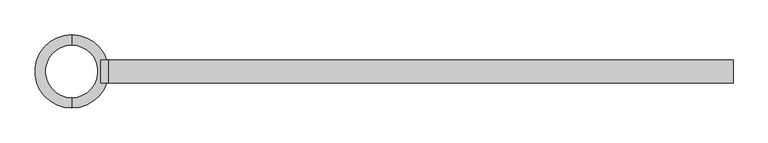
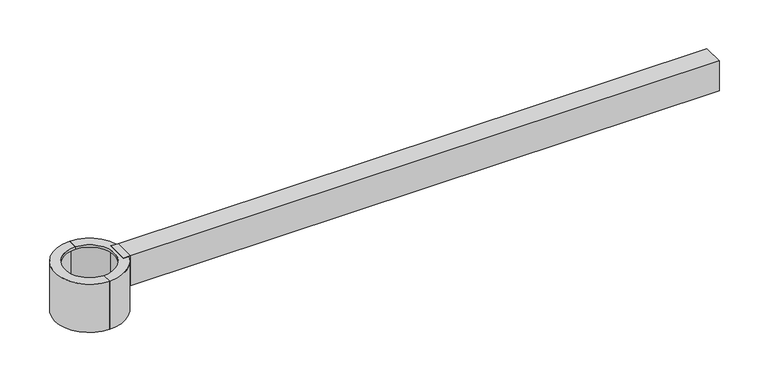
"""IFC4 building model written with IfcOpenShell, lengths in millimetres: light fixture geometry, CANDELA_CLF : 1XCLF05."""

from ifc_helpers import new_model, si_unit, frame, origin, origin_with_axes, place, context, project, spatial, polyline, circle_curve, outline, extrude, source, transform, mapped, element, save
from ifc_brep_helpers import plane_surface, cylinder_surface, revolved_surface, advanced_brep


def light_fixture_033000f6(model_context):
    return source(origin(), model_context, "Body", "SolidModel", [
        advanced_brep(
        [(0.0, -88.3, -50.0), (0.0, -63.5, -50.0), (0.0, -63.5, -44.0), (0.0, -82.3, -44.0), (0.0, -82.3, 74.0), (0.0, -63.5, 74.0), (0.0, -63.5, 80.0), (0.0, -88.3, 80.0), (0.0, 88.3, -50.0), (0.0, 88.3, 80.0), (0.0, 63.5, 80.0), (0.0, 63.5, 74.0), (0.0, 82.3, 74.0), (0.0, 82.3, -44.0), (0.0, 63.5, -44.0), (0.0, 63.5, -50.0)],
        [
            (0, 1),
            (1, 2),
            (2, 3),
            (3, 4),
            (4, 5),
            (5, 6),
            (6, 7),
            (7, 0),
            (8, 9),
            (9, 10),
            (10, 11),
            (11, 12),
            (12, 13),
            (13, 14),
            (14, 15),
            (15, 8),
            (15, 1, circle_curve(frame((0.0, 0.0, -50.0), z_axis=(0.0, 0.0, 1.0), x_axis=(0.0, -1.0, 0.0)), 63.5)),
            (0, 8, circle_curve(frame((0.0, 0.0, -50.0), z_axis=(0.0, 0.0, -1.0), x_axis=(0.0, -1.0, 0.0)), 88.3)),
            (14, 2, circle_curve(frame((0.0, 0.0, -44.0), z_axis=(0.0, 0.0, 1.0), x_axis=(0.0, -1.0, 0.0)), 63.5)),
            (13, 3, circle_curve(frame((0.0, 0.0, -44.0), z_axis=(0.0, 0.0, 1.0), x_axis=(0.0, -1.0, 0.0)), 82.3)),
            (12, 4, circle_curve(frame((0.0, 0.0, 74.0), z_axis=(0.0, 0.0, 1.0), x_axis=(0.0, -1.0, 0.0)), 82.3)),
            (11, 5, circle_curve(frame((0.0, 0.0, 74.0), z_axis=(0.0, 0.0, 1.0), x_axis=(0.0, -1.0, 0.0)), 63.5)),
            (10, 6, circle_curve(frame((0.0, 0.0, 80.0), z_axis=(0.0, 0.0, 1.0), x_axis=(0.0, -1.0, 0.0)), 63.5)),
            (9, 7, circle_curve(frame((0.0, 0.0, 80.0), z_axis=(0.0, 0.0, 1.0), x_axis=(0.0, -1.0, 0.0)), 88.3)),
        ],
        [
            plane_surface(frame((0.0, 0.0, -520.9920377), z_axis=(1.0, 0.0, 0.0), x_axis=(0.0, -1.0, 0.0))),
            plane_surface(frame((0.0, 0.0, -520.9920377), z_axis=(1.0, 0.0, 0.0), x_axis=(0.0, 1.0, 0.0))),
            plane_surface(frame((0.0, 0.0, -50.0), z_axis=(0.0, 0.0, -1.0), x_axis=(0.0, -1.0, 0.0))),
            revolved_surface(polyline([(0.0, -63.5, -50.0), (0.0, -63.5, -44.0)]), (0.0, 0.0, -520.9920377), (0.0, 0.0, -1.0)),
            plane_surface(frame((0.0, 0.0, -44.0), z_axis=(0.0, 0.0, 1.0), x_axis=(0.0, -1.0, 0.0))),
            revolved_surface(polyline([(0.0, -82.3, -44.0), (0.0, -82.3, 74.0)]), (0.0, 0.0, -520.9920377), (0.0, 0.0, -1.0)),
            plane_surface(frame((0.0, 0.0, 74.0), z_axis=(0.0, 0.0, -1.0), x_axis=(0.0, -1.0, 0.0))),
            revolved_surface(polyline([(0.0, -63.5, 74.0), (0.0, -63.5, 80.0)]), (0.0, 0.0, -520.9920377), (0.0, 0.0, -1.0)),
            plane_surface(frame((0.0, 0.0, 80.0), z_axis=(0.0, 0.0, 1.0), x_axis=(0.0, -1.0, 0.0))),
            cylinder_surface(frame((0.0, 0.0, -520.9920377), z_axis=(0.0, 0.0, -1.0), x_axis=(0.0, -1.0, 0.0)), 88.3),
        ],
        [
            (0, [[1, 2, 3, 4, 5, 6, 7, 8]]),
            (1, [[9, 10, 11, 12, 13, 14, 15, 16]]),
            (2, [[17, -1, 18, -16]]),
            (3, [[19, -2, -17, -15]]),
            (4, [[20, -3, -19, -14]]),
            (5, [[21, -4, -20, -13]]),
            (6, [[22, -5, -21, -12]]),
            (7, [[23, -6, -22, -11]]),
            (8, [[24, -7, -23, -10]]),
            (9, [[-18, -8, -24, -9]]),
        ],
    ),
        extrude(outline(polyline([(88.3, 27.5), (88.3, -27.5), (69.9764576, -27.5), (69.9764576, 27.5), (88.3, 27.5)])), origin_with_axes(), (0.0, 0.0, 1.0), 80.0),
        advanced_brep(
        [(0.0, -88.3, -50.0), (0.0, -88.3, 80.0), (0.0, -63.5, 80.0), (0.0, -63.5, 74.0), (0.0, -82.3, 74.0), (0.0, -82.3, -44.0), (0.0, -63.5, -44.0), (0.0, -63.5, -50.0), (0.0, 88.3, -50.0), (0.0, 63.5, -50.0), (0.0, 63.5, -44.0), (0.0, 82.3, -44.0), (0.0, 82.3, 74.0), (0.0, 63.5, 74.0), (0.0, 63.5, 80.0), (0.0, 88.3, 80.0)],
        [
            (0, 1),
            (1, 2),
            (2, 3),
            (3, 4),
            (4, 5),
            (5, 6),
            (6, 7),
            (7, 0),
            (8, 9),
            (9, 10),
            (10, 11),
            (11, 12),
            (12, 13),
            (13, 14),
            (14, 15),
            (15, 8),
            (8, 0, circle_curve(frame((0.0, 0.0, -50.0), z_axis=(0.0, 0.0, -1.0), x_axis=(0.0, -1.0, 0.0)), 88.3)),
            (7, 9, circle_curve(frame((0.0, 0.0, -50.0), z_axis=(0.0, 0.0, 1.0), x_axis=(0.0, -1.0, 0.0)), 63.5)),
            (6, 10, circle_curve(frame((0.0, 0.0, -44.0), z_axis=(0.0, 0.0, 1.0), x_axis=(0.0, -1.0, 0.0)), 63.5)),
            (5, 11, circle_curve(frame((0.0, 0.0, -44.0), z_axis=(0.0, 0.0, 1.0), x_axis=(0.0, -1.0, 0.0)), 82.3)),
            (4, 12, circle_curve(frame((0.0, 0.0, 74.0), z_axis=(0.0, 0.0, 1.0), x_axis=(0.0, -1.0, 0.0)), 82.3)),
            (3, 13, circle_curve(frame((0.0, 0.0, 74.0), z_axis=(0.0, 0.0, 1.0), x_axis=(0.0, -1.0, 0.0)), 63.5)),
            (2, 14, circle_curve(frame((0.0, 0.0, 80.0), z_axis=(0.0, 0.0, 1.0), x_axis=(0.0, -1.0, 0.0)), 63.5)),
            (1, 15, circle_curve(frame((0.0, 0.0, 80.0), z_axis=(0.0, 0.0, 1.0), x_axis=(0.0, -1.0, 0.0)), 88.3)),
        ],
        [
            plane_surface(frame((0.0, 0.0, -520.9920377), z_axis=(-1.0, 0.0, 0.0), x_axis=(0.0, -1.0, 0.0))),
            plane_surface(frame((0.0, 0.0, -520.9920377), z_axis=(-1.0, 0.0, 0.0), x_axis=(0.0, 1.0, 0.0))),
            plane_surface(frame((0.0, 0.0, -50.0), z_axis=(0.0, 0.0, -1.0), x_axis=(0.0, -1.0, 0.0))),
            revolved_surface(polyline([(0.0, -63.5, -44.0), (0.0, -63.5, -50.0)]), (0.0, 0.0, -520.9920377), (0.0, 0.0, 1.0)),
            plane_surface(frame((0.0, 0.0, -44.0), z_axis=(0.0, 0.0, 1.0), x_axis=(0.0, -1.0, 0.0))),
            revolved_surface(polyline([(0.0, -82.3, 74.0), (0.0, -82.3, -44.0)]), (0.0, 0.0, -520.9920377), (0.0, 0.0, 1.0)),
            plane_surface(frame((0.0, 0.0, 74.0), z_axis=(0.0, 0.0, -1.0), x_axis=(0.0, -1.0, 0.0))),
            revolved_surface(polyline([(0.0, -63.5, 80.0), (0.0, -63.5, 74.0)]), (0.0, 0.0, -520.9920377), (0.0, 0.0, 1.0)),
            plane_surface(frame((0.0, 0.0, 80.0), z_axis=(0.0, 0.0, 1.0), x_axis=(0.0, -1.0, 0.0))),
            cylinder_surface(frame((0.0, 0.0, -520.9920377), z_axis=(0.0, 0.0, 1.0), x_axis=(0.0, -1.0, 0.0)), 88.3),
        ],
        [
            (0, [[1, 2, 3, 4, 5, 6, 7, 8]]),
            (1, [[9, 10, 11, 12, 13, 14, 15, 16]]),
            (2, [[17, -8, 18, -9]]),
            (3, [[-18, -7, 19, -10]]),
            (4, [[-19, -6, 20, -11]]),
            (5, [[-20, -5, 21, -12]]),
            (6, [[-21, -4, 22, -13]]),
            (7, [[-22, -3, 23, -14]]),
            (8, [[-23, -2, 24, -15]]),
            (9, [[-24, -1, -17, -16]]),
        ],
    ),
        extrude(outline(polyline([(27.5, 0.0), (-27.5, 0.0), (-27.5, 80.0), (27.5, 80.0), (27.5, 0.0)]), holes=[polyline([(-21.5, 6.0), (21.5, 6.0), (21.5, 74.0), (-21.5, 74.0), (-21.5, 6.0)])]), frame((88.3, 0.0, 0.0), z_axis=(1.0, 0.0, 0.0), x_axis=(0.0, 1.0, 0.0)), (0.0, 0.0, 1.0), 1500.0),
    ])


if __name__ == "__main__":
    model = new_model("IFC4")
    model_context = context("Model", 3, world=origin())
    ifc_project = project(units=[si_unit("LENGTHUNIT", "METRE", prefix="MILLI")], contexts=[model_context])
    site = spatial("IfcSite", under=ifc_project)
    building = spatial("IfcBuilding", under=site)
    placement = place(None, origin())
    light_fixture_shape = light_fixture_033000f6(model_context)
    element("IfcLightFixture", 1, ObjectType="CANDELA_CLF : 1XCLF05", at=placement, inside=building, context=model_context, shape_type="MappedRepresentation", body=[
        mapped(light_fixture_shape, transform((0.0, 0.0, 0.0), x_axis=(1.0, 0.0, 0.0), y_axis=(0.0, 1.0, 0.0), z_axis=(0.0, 0.0, 1.0))),
    ])
    save(model, "model.ifc")
